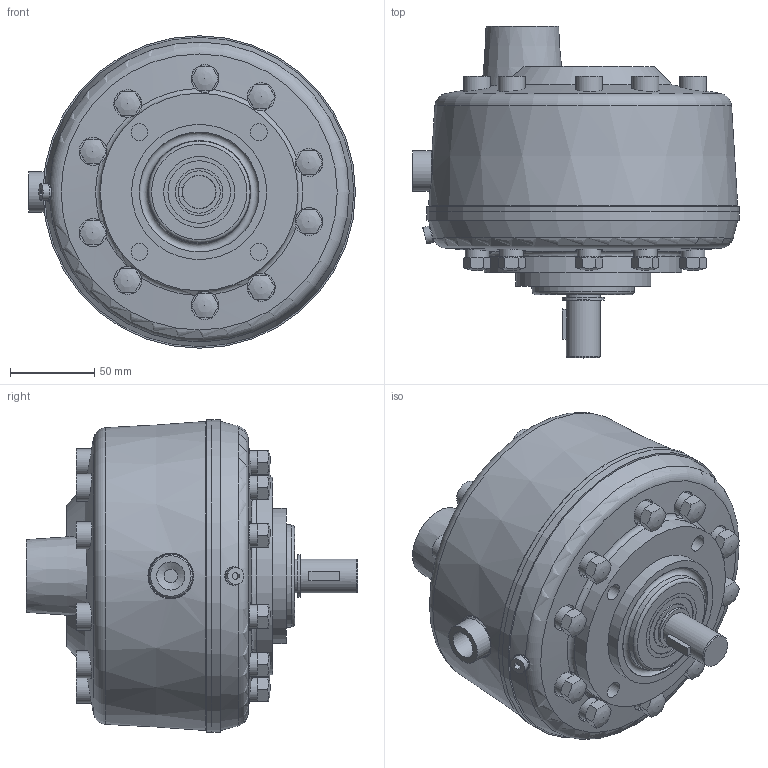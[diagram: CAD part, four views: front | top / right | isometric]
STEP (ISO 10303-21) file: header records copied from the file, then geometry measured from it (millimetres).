
FILE_DESCRIPTION( ( 'STEP AP214' ), '1' );
FILE_NAME( '//HAWE-GROUP.COM/HOME01/KohlhaufM/3D Komponenten/HAWE-R-Pumpe-2,7.stp', '2019-03-13T14:19:07', ( '' ), ( '' ), ' ', 'PARTsolutions', ' ' );
FILE_SCHEMA( ( 'AUTOMOTIVE_DESIGN { 1 0 10303 214 1 1 1 1 }' ) );
Length unit declared in the file: millimetre
Products named in the file (9): 30365775 HAWE 6012-10-Zy-1DA_1g; _HAWE 6012-10-Zy-1DA_1g; _HAWE ZylSc DIN4762 M10x100; _HAWE LagSc-5Zyl; _HAWE Wellendichtring-B1-20x42x7-DIN3760; _HAWE Welle-6012009/1; _HAWE Hutmutter-6010010; _HAWE M6x6_zs_usr_m6; _HAWE SamPl-6012 004
Assembly tree (26 placements, depth 2):
  30365775 HAWE 6012-10-Zy-1DA_1g
    _HAWE 6012-10-Zy-1DA_1g
    _HAWE ZylSc DIN4762 M10x100  x10
    _HAWE LagSc-5Zyl
    _HAWE Wellendichtring-B1-20x42x7-DIN3760
    _HAWE Welle-6012009/1
    _HAWE Hutmutter-6010010  x10
    _HAWE M6x6_zs_usr_m6
    _HAWE SamPl-6012 004
Bounding box: 193.5 x 196.5 x 185 mm (x, y, z)
Volume: 990015.3 mm3; surface area: 343566 mm2
Topology: 26 solids, 26 shells, 538 faces, 1209 edges, 787 vertices
Faces by surface type: plane 277, cylinder 146, cone 83, torus 22, sphere 10
Full cylindrical faces by diameter (mm): 3 x2, 5 x2, 6 x7, 8 x1, 10 x25, 10.2 x1, 10.5 x20, 10.6 x10, 11 x1, 14 x10, 16 x10, 16.5 x20, 16.66 x1, 20 x3, 21 x1, 22 x2, 24 x1, 25 x1, 25.7 x2, 26 x2, 28 x1, 33.25 x1, 37 x1, 40 x1, 42 x2, 72 x2, 80 x1, 106 x1, 117 x1, 152 x1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
Entity records: 12095 total; most frequent: CARTESIAN_POINT 3982, DIRECTION 1228, ORIENTED_EDGE 898, AXIS2_PLACEMENT_3D 580, EDGE_LOOP 543, EDGE_CURVE 449, FACE_OUTER_BOUND 391, VERTEX_POINT 371
